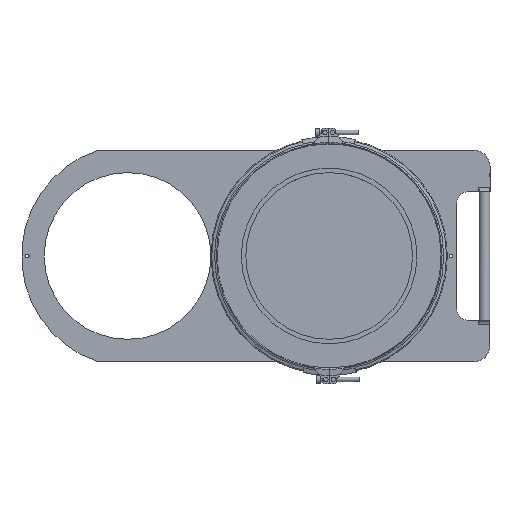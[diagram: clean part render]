
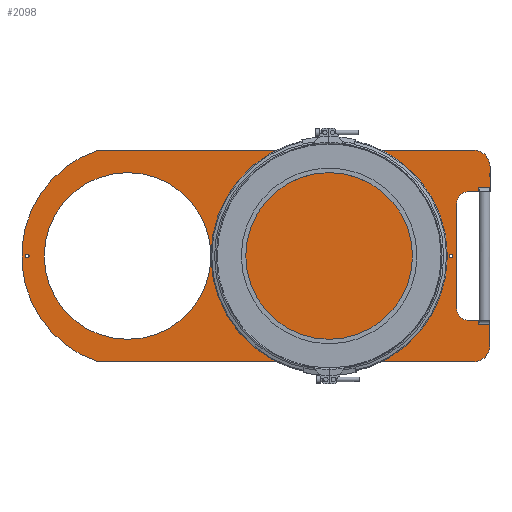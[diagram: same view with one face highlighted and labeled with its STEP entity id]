
A CAD part, top view. The second image highlights one B-rep face of the part: STEP entity #2098.
In plain terms, the highlighted planar face has unit normal (0, 0, 1) as drawn and (0, 0, -1) by its records, which use the part's own axes.
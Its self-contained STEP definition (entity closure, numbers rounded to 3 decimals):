
#1034=CARTESIAN_POINT('',(-826.5,190.0,0.0));
#1035=VERTEX_POINT('',#1034);
#1036=CARTESIAN_POINT('',(-830.,190.0,0.0));
#1037=DIRECTION('',(0.0,0.0,1.0));
#1038=DIRECTION('',(1.0,0.0,0.0));
#1039=AXIS2_PLACEMENT_3D('',#1036,#1037,#1038);
#1040=CIRCLE('',#1039,3.5);
#1041=EDGE_CURVE('',#1035,#1035,#1040,.T.);
#1083=CARTESIAN_POINT('',(-66.5,190.0,0.0));
#1084=VERTEX_POINT('',#1083);
#1085=CARTESIAN_POINT('',(-70.,190.0,0.0));
#1086=DIRECTION('',(0.0,0.0,1.0));
#1087=DIRECTION('',(1.0,0.0,0.0));
#1088=AXIS2_PLACEMENT_3D('',#1085,#1086,#1087);
#1089=CIRCLE('',#1088,3.5);
#1090=EDGE_CURVE('',#1084,#1084,#1089,.T.);
#1100=CARTESIAN_POINT('',(-0.113,67.,0.0));
#1101=VERTEX_POINT('',#1100);
#1121=CARTESIAN_POINT('',(-19.887,67.,0.0));
#1122=VERTEX_POINT('',#1121);
#1123=CARTESIAN_POINT('',(-0.113,67.,0.0));
#1124=DIRECTION('',(-1.0,0.0,0.0));
#1125=VECTOR('',#1124,19.774);
#1126=LINE('',#1123,#1125);
#1127=EDGE_CURVE('',#1101,#1122,#1126,.T.);
#1178=CARTESIAN_POINT('',(-19.887,313.,0.0));
#1179=VERTEX_POINT('',#1178);
#1199=CARTESIAN_POINT('',(-0.113,313.,0.0));
#1200=VERTEX_POINT('',#1199);
#1201=CARTESIAN_POINT('',(-19.887,313.,0.0));
#1202=DIRECTION('',(1.0,0.0,0.0));
#1203=VECTOR('',#1202,19.774);
#1204=LINE('',#1201,#1203);
#1205=EDGE_CURVE('',#1179,#1200,#1204,.T.);
#1584=CARTESIAN_POINT('',(-0.113,75.0,0.0));
#1585=VERTEX_POINT('',#1584);
#1595=CARTESIAN_POINT('',(-0.113,67.,0.0));
#1596=DIRECTION('',(0.0,1.0,0.0));
#1597=VECTOR('',#1596,8.);
#1598=LINE('',#1595,#1597);
#1599=EDGE_CURVE('',#1101,#1585,#1598,.T.);
#1604=CARTESIAN_POINT('',(-19.887,75.0,0.0));
#1605=VERTEX_POINT('',#1604);
#1606=CARTESIAN_POINT('',(-19.887,75.,0.0));
#1607=DIRECTION('',(0.0,-1.0,0.0));
#1608=VECTOR('',#1607,8.);
#1609=LINE('',#1606,#1608);
#1610=EDGE_CURVE('',#1605,#1122,#1609,.T.);
#1635=CARTESIAN_POINT('',(-0.113,305.,0.0));
#1636=VERTEX_POINT('',#1635);
#1656=CARTESIAN_POINT('',(-19.887,305.,0.0));
#1657=VERTEX_POINT('',#1656);
#1665=CARTESIAN_POINT('',(-19.887,313.,0.0));
#1666=DIRECTION('',(0.0,-1.0,0.0));
#1667=VECTOR('',#1666,8.0);
#1668=LINE('',#1665,#1667);
#1669=EDGE_CURVE('',#1179,#1657,#1668,.T.);
#1674=CARTESIAN_POINT('',(-0.113,305.,0.0));
#1675=DIRECTION('',(0.0,1.0,0.0));
#1676=VECTOR('',#1675,8.0);
#1677=LINE('',#1674,#1676);
#1678=EDGE_CURVE('',#1636,#1200,#1677,.T.);
#1705=CARTESIAN_POINT('',(0.,305.,0.0));
#1706=VERTEX_POINT('',#1705);
#1707=CARTESIAN_POINT('',(0.,305.,0.0));
#1708=DIRECTION('',(-1.0,0.0,0.0));
#1709=VECTOR('',#1708,0.113);
#1710=LINE('',#1707,#1709);
#1711=EDGE_CURVE('',#1706,#1636,#1710,.T.);
#1729=CARTESIAN_POINT('',(-40.,305.,0.0));
#1730=VERTEX_POINT('',#1729);
#1737=CARTESIAN_POINT('',(-19.887,305.,0.0));
#1738=DIRECTION('',(-1.0,0.0,0.0));
#1739=VECTOR('',#1738,20.113);
#1740=LINE('',#1737,#1739);
#1741=EDGE_CURVE('',#1657,#1730,#1740,.T.);
#1752=CARTESIAN_POINT('',(0.,75.,0.0));
#1753=VERTEX_POINT('',#1752);
#1760=CARTESIAN_POINT('',(-0.113,75.,0.0));
#1761=DIRECTION('',(1.0,0.0,0.0));
#1762=VECTOR('',#1761,0.113);
#1763=LINE('',#1760,#1762);
#1764=EDGE_CURVE('',#1585,#1753,#1763,.T.);
#1791=CARTESIAN_POINT('',(-40.,75.0,0.0));
#1792=VERTEX_POINT('',#1791);
#1793=CARTESIAN_POINT('',(-40.,75.0,0.0));
#1794=DIRECTION('',(1.0,0.0,0.0));
#1795=VECTOR('',#1794,20.113);
#1796=LINE('',#1793,#1795);
#1797=EDGE_CURVE('',#1792,#1605,#1796,.T.);
#1817=CARTESIAN_POINT('',(-500.5,190.,0.0));
#1818=VERTEX_POINT('',#1817);
#1819=CARTESIAN_POINT('',(-650.0,190.0,0.0));
#1820=DIRECTION('',(0.0,0.0,1.0));
#1821=DIRECTION('',(-1.0,0.0,0.0));
#1822=AXIS2_PLACEMENT_3D('',#1819,#1820,#1821);
#1823=CIRCLE('',#1822,149.5);
#1824=EDGE_CURVE('',#1818,#1818,#1823,.T.);
#1835=CARTESIAN_POINT('',(0.,350.0,0.0));
#1836=VERTEX_POINT('',#1835);
#1843=CARTESIAN_POINT('',(-30.,380.0,0.0));
#1844=VERTEX_POINT('',#1843);
#1845=CARTESIAN_POINT('',(-30.,350.0,0.0));
#1846=DIRECTION('',(0.0,0.0,-1.0));
#1847=DIRECTION('',(-1.0,0.0,0.0));
#1848=AXIS2_PLACEMENT_3D('',#1845,#1846,#1847);
#1849=CIRCLE('',#1848,30.0);
#1850=EDGE_CURVE('',#1844,#1836,#1849,.T.);
#1869=CARTESIAN_POINT('',(0.,350.0,0.0));
#1870=DIRECTION('',(0.0,-1.0,0.0));
#1871=VECTOR('',#1870,45.);
#1872=LINE('',#1869,#1871);
#1873=EDGE_CURVE('',#1836,#1706,#1872,.T.);
#1885=CARTESIAN_POINT('',(-60.,285.0,0.0));
#1886=VERTEX_POINT('',#1885);
#1893=CARTESIAN_POINT('',(-40.,285.0,0.0));
#1894=DIRECTION('',(0.0,0.0,1.0));
#1895=DIRECTION('',(0.0,1.0,0.0));
#1896=AXIS2_PLACEMENT_3D('',#1893,#1894,#1895);
#1897=CIRCLE('',#1896,20.0);
#1898=EDGE_CURVE('',#1730,#1886,#1897,.T.);
#1910=CARTESIAN_POINT('',(-60.,95.,0.0));
#1911=VERTEX_POINT('',#1910);
#1918=CARTESIAN_POINT('',(-60.,285.0,0.0));
#1919=DIRECTION('',(0.0,-1.0,0.0));
#1920=VECTOR('',#1919,190.0);
#1921=LINE('',#1918,#1920);
#1922=EDGE_CURVE('',#1886,#1911,#1921,.T.);
#1935=CARTESIAN_POINT('',(-40.,95.0,0.0));
#1936=DIRECTION('',(0.0,0.0,1.0));
#1937=DIRECTION('',(-1.0,0.0,0.0));
#1938=AXIS2_PLACEMENT_3D('',#1935,#1936,#1937);
#1939=CIRCLE('',#1938,20.0);
#1940=EDGE_CURVE('',#1911,#1792,#1939,.T.);
#1952=CARTESIAN_POINT('',(0.,30.,0.0));
#1953=VERTEX_POINT('',#1952);
#1960=CARTESIAN_POINT('',(0.,75.,0.0));
#1961=DIRECTION('',(0.0,-1.0,0.0));
#1962=VECTOR('',#1961,45.0);
#1963=LINE('',#1960,#1962);
#1964=EDGE_CURVE('',#1753,#1953,#1963,.T.);
#1977=CARTESIAN_POINT('',(-30.,0.0,0.0));
#1978=VERTEX_POINT('',#1977);
#1985=CARTESIAN_POINT('',(-30.,30.0,0.0));
#1986=DIRECTION('',(0.0,0.0,-1.0));
#1987=DIRECTION('',(0.0,1.0,0.0));
#1988=AXIS2_PLACEMENT_3D('',#1985,#1986,#1987);
#1989=CIRCLE('',#1988,30.0);
#1990=EDGE_CURVE('',#1953,#1978,#1989,.T.);
#2002=CARTESIAN_POINT('',(-702.45,0.,0.0));
#2003=VERTEX_POINT('',#2002);
#2010=CARTESIAN_POINT('',(-30.,0.0,0.0));
#2011=DIRECTION('',(-1.0,0.0,0.0));
#2012=VECTOR('',#2011,672.45);
#2013=LINE('',#2010,#2012);
#2014=EDGE_CURVE('',#1978,#2003,#2013,.T.);
#2026=CARTESIAN_POINT('',(-702.45,380.0,0.0));
#2027=VERTEX_POINT('',#2026);
#2034=CARTESIAN_POINT('',(-640.0,190.0,0.0));
#2035=DIRECTION('',(0.0,0.0,-1.0));
#2036=DIRECTION('',(0.312,-0.95,0.0));
#2037=AXIS2_PLACEMENT_3D('',#2034,#2035,#2036);
#2038=CIRCLE('',#2037,200.0);
#2039=EDGE_CURVE('',#2003,#2027,#2038,.T.);
#2052=CARTESIAN_POINT('',(-702.45,380.,0.0));
#2053=DIRECTION('',(1.0,0.0,0.0));
#2054=VECTOR('',#2053,672.45);
#2055=LINE('',#2052,#2054);
#2056=EDGE_CURVE('',#2027,#1844,#2055,.T.);
#2062=CARTESIAN_POINT('',(-381.801,190.0,0.0));
#2063=DIRECTION('',(0.0,0.0,1.0));
#2064=DIRECTION('',(1.0,0.0,0.0));
#2065=AXIS2_PLACEMENT_3D('',#2062,#2063,#2064);
#2066=PLANE('',#2065);
#2067=ORIENTED_EDGE('',*,*,#1599,.T.);
#2068=ORIENTED_EDGE('',*,*,#1764,.T.);
#2069=ORIENTED_EDGE('',*,*,#1964,.T.);
#2070=ORIENTED_EDGE('',*,*,#1990,.T.);
#2071=ORIENTED_EDGE('',*,*,#2014,.T.);
#2072=ORIENTED_EDGE('',*,*,#2039,.T.);
#2073=ORIENTED_EDGE('',*,*,#2056,.T.);
#2074=ORIENTED_EDGE('',*,*,#1850,.T.);
#2075=ORIENTED_EDGE('',*,*,#1873,.T.);
#2076=ORIENTED_EDGE('',*,*,#1711,.T.);
#2077=ORIENTED_EDGE('',*,*,#1678,.T.);
#2078=ORIENTED_EDGE('',*,*,#1205,.F.);
#2079=ORIENTED_EDGE('',*,*,#1669,.T.);
#2080=ORIENTED_EDGE('',*,*,#1741,.T.);
#2081=ORIENTED_EDGE('',*,*,#1898,.T.);
#2082=ORIENTED_EDGE('',*,*,#1922,.T.);
#2083=ORIENTED_EDGE('',*,*,#1940,.T.);
#2084=ORIENTED_EDGE('',*,*,#1797,.T.);
#2085=ORIENTED_EDGE('',*,*,#1610,.T.);
#2086=ORIENTED_EDGE('',*,*,#1127,.F.);
#2087=EDGE_LOOP('',(#2067,#2068,#2069,#2070,#2071,#2072,#2073,#2074,#2075,#2076,#2077,#2078,#2079,#2080,#2081,#2082,#2083,#2084,#2085,#2086));
#2088=FACE_OUTER_BOUND('',#2087,.T.);
#2089=ORIENTED_EDGE('',*,*,#1041,.T.);
#2090=EDGE_LOOP('',(#2089));
#2091=FACE_BOUND('',#2090,.T.);
#2092=ORIENTED_EDGE('',*,*,#1090,.T.);
#2093=EDGE_LOOP('',(#2092));
#2094=FACE_BOUND('',#2093,.T.);
#2095=ORIENTED_EDGE('',*,*,#1824,.T.);
#2096=EDGE_LOOP('',(#2095));
#2097=FACE_BOUND('',#2096,.T.);
#2098=ADVANCED_FACE('',(#2088,#2091,#2094,#2097),#2066,.F.);
